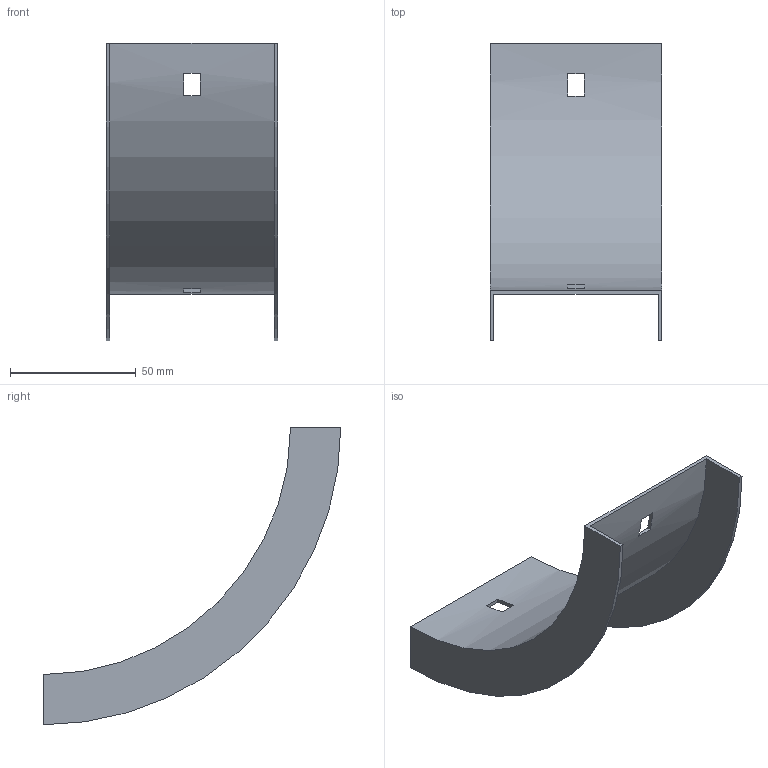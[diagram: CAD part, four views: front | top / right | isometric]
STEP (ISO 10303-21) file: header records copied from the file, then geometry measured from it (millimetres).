
FILE_DESCRIPTION (( 'STEP AP214' ), '1' );
FILE_NAME ('30N1R065.step', '2025-02-21T09:23:29', ( '' ), ( '' ), 'SwSTEP 2.0', 'SolidWorks 2023', '' );
FILE_SCHEMA (( 'AUTOMOTIVE_DESIGN' ));
Length unit declared in the file: millimetre
Products named in the file (1): 30N1R065
Bounding box: 68.5 x 118.5 x 118.5 mm (x, y, z)
Volume: 25365.2 mm3; surface area: 34786 mm2
Topology: 1 solids, 1 shells, 18 faces, 48 edges, 32 vertices
Faces by surface type: plane 14, cylinder 4
Entity records: 599 total; most frequent: DIRECTION 102, CARTESIAN_POINT 99, ORIENTED_EDGE 96, EDGE_CURVE 48, AXIS2_PLACEMENT_3D 35, LINE 32, VECTOR 32, VERTEX_POINT 32
